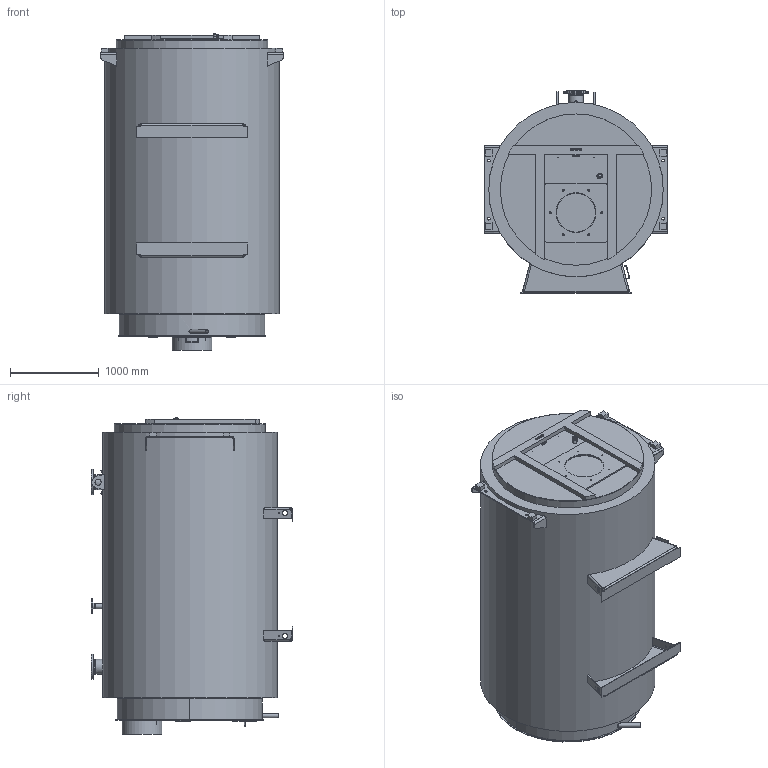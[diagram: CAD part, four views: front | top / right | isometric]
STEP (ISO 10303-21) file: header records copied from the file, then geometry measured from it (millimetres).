
FILE_DESCRIPTION(('TFLEX Exchange Step'),'2;1');
FILE_NAME('M22A026_7924600_H001.stp', '2024-08-01T12:24:57+03:00',('kort'),('Unknown organisation'),'TFLEX Exchange 2024.2','T-FLEX CAD','Unknown authorisation');
FILE_SCHEMA( ('AUTOMOTIVE_DESIGN { 1 0 10303 214 1 1 1 1 }') );
Length unit declared in the file: millimetre
Products named in the file (1): Nodes
Bounding box: 2065 x 2280 x 3571.64 mm (x, y, z)
Volume: 9970347089.8 mm3; surface area: 78038624.3 mm2
Topology: 74 solids, 74 shells, 944 faces, 2392 edges, 1618 vertices
Faces by surface type: plane 464, cylinder 275, bspline 115, cone 65, torus 19, sphere 6
Full cylindrical faces by diameter (mm): 1 x16, 2.2 x4, 3.2 x4, 3.3 x4, 4 x6, 6.5 x4, 10 x9, 11.45 x1, 12 x18, 13 x4, 14.63 x6, 18 x4, 22 x22, 32 x4, 35 x3, 40 x2, 41.1 x1, 41.45 x1, 44.8 x1, 45 x4, 47.8 x1, 48 x1, 48.3 x1, 50 x1, 54.5 x1, 60 x5, 60.3 x1, 70 x2, 102 x1, 152 x2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
Entity records: 43093 total; most frequent: CARTESIAN_POINT 19956, ORIENTED_EDGE 4740, DIRECTION 4463, EDGE_CURVE 2370, AXIS2_PLACEMENT_3D 1632, VERTEX_POINT 1618, VECTOR 1199, LINE 1199
